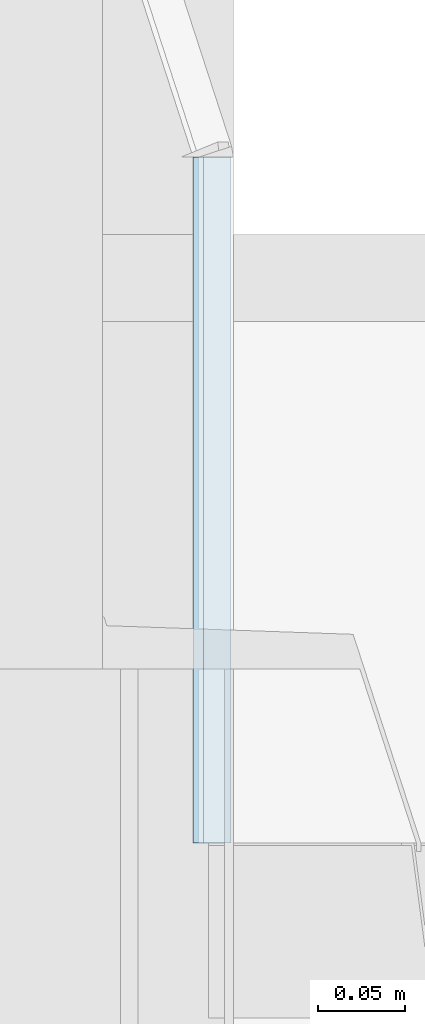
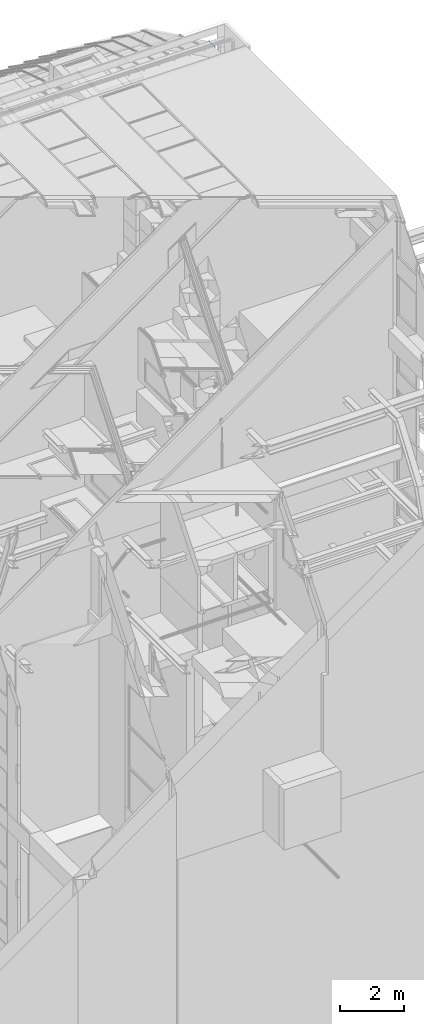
# One storey, part 311 of 583: 2 slabs.
"""IFC2X3 building model written with IfcOpenShell, lengths in metres."""

from ifc_helpers import new_model, entity, si_unit, converted_unit, derived_unit, money_unit, direction, frame, origin_with_axes, place, context, subcontext, project, spatial, faceted_brep, material, type_object, element, save


model = new_model("IFC2X3")

# Units and contexts
model_context = context("Model", 3, precision=1e-05, world=origin_with_axes(), true_north=direction((0.0, 1.0)))
body_context = subcontext(model_context, "Body", "Model", "MODEL_VIEW", scale=1.0)
ifc_project = project(units=[si_unit("LENGTHUNIT", "METRE"), si_unit("AREAUNIT", "SQUARE_METRE"), si_unit("VOLUMEUNIT", "CUBIC_METRE"), si_unit("ABSORBEDDOSEUNIT", "GRAY"), si_unit("AMOUNTOFSUBSTANCEUNIT", "MOLE"), si_unit("DOSEEQUIVALENTUNIT", "SIEVERT"), si_unit("ELECTRICCAPACITANCEUNIT", "FARAD"), si_unit("ELECTRICCHARGEUNIT", "COULOMB"), si_unit("ELECTRICCONDUCTANCEUNIT", "SIEMENS"), si_unit("ELECTRICCURRENTUNIT", "AMPERE"), si_unit("ELECTRICRESISTANCEUNIT", "OHM"), si_unit("ELECTRICVOLTAGEUNIT", "VOLT"), si_unit("ENERGYUNIT", "JOULE"), si_unit("FORCEUNIT", "NEWTON"), si_unit("FREQUENCYUNIT", "HERTZ"), si_unit("ILLUMINANCEUNIT", "LUX"), si_unit("INDUCTANCEUNIT", "HENRY"), si_unit("LUMINOUSFLUXUNIT", "LUMEN"), si_unit("LUMINOUSINTENSITYUNIT", "CANDELA"), si_unit("MAGNETICFLUXDENSITYUNIT", "TESLA"), si_unit("MAGNETICFLUXUNIT", "WEBER"), si_unit("MASSUNIT", "GRAM"), converted_unit("PLANEANGLEUNIT", "degree", entity("IfcReal", 0.0174532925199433), si_unit("PLANEANGLEUNIT", "RADIAN"), dimensions=[0, 0, 0, 0, 0, 0, 0]), si_unit("POWERUNIT", "WATT"), si_unit("PRESSUREUNIT", "PASCAL"), si_unit("RADIOACTIVITYUNIT", "BECQUEREL"), si_unit("SOLIDANGLEUNIT", "STERADIAN"), si_unit("THERMODYNAMICTEMPERATUREUNIT", "KELVIN"), si_unit("TIMEUNIT", "SECOND"), derived_unit("ACCELERATIONUNIT", [(si_unit("LENGTHUNIT", "METRE"), 1), (si_unit("TIMEUNIT", "SECOND"), -2)]), derived_unit("ANGULARVELOCITYUNIT", [(converted_unit("PLANEANGLEUNIT", "degree", entity("IfcReal", 0.0174532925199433), si_unit("PLANEANGLEUNIT", "RADIAN"), dimensions=[0, 0, 0, 0, 0, 0, 0]), 1), (si_unit("TIMEUNIT", "SECOND"), -1)]), derived_unit("CURVATUREUNIT", [(converted_unit("PLANEANGLEUNIT", "degree", entity("IfcReal", 0.0174532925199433), si_unit("PLANEANGLEUNIT", "RADIAN"), dimensions=[0, 0, 0, 0, 0, 0, 0]), 1), (si_unit("LENGTHUNIT", "METRE"), -1)]), derived_unit("DYNAMICVISCOSITYUNIT", [(si_unit("PRESSUREUNIT", "PASCAL"), 1), (si_unit("TIMEUNIT", "SECOND"), 1)]), derived_unit("HEATFLUXDENSITYUNIT", [(si_unit("POWERUNIT", "WATT"), 1), (si_unit("LENGTHUNIT", "METRE"), -2)]), derived_unit("HEATINGVALUEUNIT", [(si_unit("ENERGYUNIT", "JOULE"), 1), (si_unit("MASSUNIT", "GRAM"), -1)]), derived_unit("INTEGERCOUNTRATEUNIT", [(si_unit("TIMEUNIT", "SECOND"), -1)]), derived_unit("IONCONCENTRATIONUNIT", [(si_unit("MASSUNIT", "GRAM"), 1), (si_unit("VOLUMEUNIT", "CUBIC_METRE"), -1)]), derived_unit("ISOTHERMALMOISTURECAPACITYUNIT", [(si_unit("VOLUMEUNIT", "CUBIC_METRE"), 1), (si_unit("MASSUNIT", "GRAM"), -1)]), derived_unit("KINEMATICVISCOSITYUNIT", [(si_unit("AREAUNIT", "SQUARE_METRE"), 1), (si_unit("TIMEUNIT", "SECOND"), -1)]), derived_unit("LINEARFORCEUNIT", [(si_unit("FORCEUNIT", "NEWTON"), 1), (si_unit("LENGTHUNIT", "METRE"), -1)]), derived_unit("LINEARMOMENTUNIT", [(si_unit("FORCEUNIT", "NEWTON"), 1), (si_unit("LENGTHUNIT", "METRE"), -1)]), derived_unit("LINEARSTIFFNESSUNIT", [(si_unit("FORCEUNIT", "NEWTON"), 1), (si_unit("LENGTHUNIT", "METRE"), -1)]), derived_unit("LINEARVELOCITYUNIT", [(si_unit("LENGTHUNIT", "METRE"), 1), (si_unit("TIMEUNIT", "SECOND"), -1)]), derived_unit("LUMINOUSINTENSITYDISTRIBUTIONUNIT", [(si_unit("LUMINOUSINTENSITYUNIT", "CANDELA"), 1), (si_unit("LUMINOUSFLUXUNIT", "LUMEN"), -1)]), derived_unit("MASSDENSITYUNIT", [(si_unit("MASSUNIT", "GRAM"), 1), (si_unit("VOLUMEUNIT", "CUBIC_METRE"), -1)]), derived_unit("MASSFLOWRATEUNIT", [(si_unit("MASSUNIT", "GRAM"), 1), (si_unit("TIMEUNIT", "SECOND"), -1)]), derived_unit("MASSPERLENGTHUNIT", [(si_unit("MASSUNIT", "GRAM"), 1), (si_unit("LENGTHUNIT", "METRE"), -1)]), derived_unit("MODULUSOFELASTICITYUNIT", [(si_unit("FORCEUNIT", "NEWTON"), 1), (si_unit("AREAUNIT", "SQUARE_METRE"), -1)]), derived_unit("MODULUSOFLINEARSUBGRADEREACTIONUNIT", [(si_unit("FORCEUNIT", "NEWTON"), 1), (si_unit("LENGTHUNIT", "METRE"), -2)]), derived_unit("MODULUSOFROTATIONALSUBGRADEREACTIONUNIT", [(si_unit("FORCEUNIT", "NEWTON"), 1), (si_unit("LENGTHUNIT", "METRE"), 1)]), derived_unit("MODULUSOFSUBGRADEREACTIONUNIT", [(si_unit("FORCEUNIT", "NEWTON"), 1), (si_unit("VOLUMEUNIT", "CUBIC_METRE"), -1)]), derived_unit("MOISTUREDIFFUSIVITYUNIT", [(si_unit("VOLUMEUNIT", "CUBIC_METRE"), 1), (si_unit("TIMEUNIT", "SECOND"), -1)]), derived_unit("MOLECULARWEIGHTUNIT", [(si_unit("MASSUNIT", "GRAM"), 1), (si_unit("AMOUNTOFSUBSTANCEUNIT", "MOLE"), -1)]), derived_unit("PLANARFORCEUNIT", [(si_unit("FORCEUNIT", "NEWTON"), 1), (si_unit("LENGTHUNIT", "METRE"), -2)]), derived_unit("ROTATIONALFREQUENCYUNIT", [(si_unit("TIMEUNIT", "SECOND"), -1)]), derived_unit("ROTATIONALMASSUNIT", [(si_unit("MASSUNIT", "GRAM"), 1), (si_unit("LENGTHUNIT", "METRE"), 2)]), derived_unit("ROTATIONALSTIFFNESSUNIT", [(si_unit("FORCEUNIT", "NEWTON"), 1), (si_unit("LENGTHUNIT", "METRE"), 1), (converted_unit("PLANEANGLEUNIT", "degree", entity("IfcReal", 0.0174532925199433), si_unit("PLANEANGLEUNIT", "RADIAN"), dimensions=[0, 0, 0, 0, 0, 0, 0]), -1)]), derived_unit("SECTIONAREAINTEGRALUNIT", [(si_unit("LENGTHUNIT", "METRE"), 5)]), derived_unit("SECTIONMODULUSUNIT", [(si_unit("LENGTHUNIT", "METRE"), 3)]), derived_unit("SHEARMODULUSUNIT", [(si_unit("FORCEUNIT", "NEWTON"), 1), (si_unit("AREAUNIT", "SQUARE_METRE"), -1)]), derived_unit("SOUNDPOWERUNIT", [(si_unit("ENERGYUNIT", "JOULE"), 1), (si_unit("TIMEUNIT", "SECOND"), -1)]), derived_unit("SPECIFICHEATCAPACITYUNIT", [(si_unit("FORCEUNIT", "NEWTON"), 1), (si_unit("MASSUNIT", "GRAM"), -1), (si_unit("THERMODYNAMICTEMPERATUREUNIT", "KELVIN"), -1)]), derived_unit("TEMPERATUREGRADIENTUNIT", [(si_unit("THERMODYNAMICTEMPERATUREUNIT", "KELVIN"), 1), (si_unit("LENGTHUNIT", "METRE"), -1)]), derived_unit("THERMALADMITTANCEUNIT", [(si_unit("POWERUNIT", "WATT"), 1), (si_unit("AREAUNIT", "SQUARE_METRE"), -1), (si_unit("THERMODYNAMICTEMPERATUREUNIT", "KELVIN"), -1)]), derived_unit("THERMALCONDUCTANCEUNIT", [(si_unit("POWERUNIT", "WATT"), 1), (si_unit("LENGTHUNIT", "METRE"), -1), (si_unit("THERMODYNAMICTEMPERATUREUNIT", "KELVIN"), -1)]), derived_unit("THERMALEXPANSIONCOEFFICIENTUNIT", [(si_unit("THERMODYNAMICTEMPERATUREUNIT", "KELVIN"), -1)]), derived_unit("THERMALRESISTANCEUNIT", [(si_unit("AREAUNIT", "SQUARE_METRE"), 1), (si_unit("POWERUNIT", "WATT"), -1)]), derived_unit("THERMALTRANSMITTANCEUNIT", [(si_unit("POWERUNIT", "WATT"), 1), (si_unit("AREAUNIT", "SQUARE_METRE"), -1), (si_unit("THERMODYNAMICTEMPERATUREUNIT", "KELVIN"), -1)]), derived_unit("TORQUEUNIT", [(si_unit("FORCEUNIT", "NEWTON"), 1), (si_unit("LENGTHUNIT", "METRE"), 1)]), derived_unit("VAPORPERMEABILITYUNIT", [(si_unit("MASSUNIT", "GRAM"), 1), (si_unit("TIMEUNIT", "SECOND"), -1)]), derived_unit("VOLUMETRICFLOWRATEUNIT", [(si_unit("VOLUMEUNIT", "CUBIC_METRE"), 1), (si_unit("TIMEUNIT", "SECOND"), -1)]), derived_unit("WARPINGCONSTANTUNIT", [(si_unit("LENGTHUNIT", "METRE"), 6)]), derived_unit("WARPINGMOMENTUNIT", [(si_unit("FORCEUNIT", "NEWTON"), 1), (si_unit("LENGTHUNIT", "METRE"), 2)]), money_unit("GBP")], contexts=[model_context])

# Site, building, storey
site_placement = place(None, origin_with_axes())
site = spatial("IfcSite", under=ifc_project, at=site_placement, Name="Site", CompositionType="ELEMENT")
building_placement = place(site_placement, origin_with_axes())
building = spatial("IfcBuilding", under=site, at=building_placement, Name="Building01", CompositionType="ELEMENT")
storey_placement = place(building_placement, frame((0.0, 0.0, 20.78), z_axis=(0.0, 0.0, 1.0), x_axis=(1.0, 0.0, 0.0)))
storey = spatial("IfcBuildingStorey", under=building, at=storey_placement, Name="RL", CompositionType="ELEMENT", Elevation=20.78)

# Slabs
ifc_material = material(Name="A_BSUK_Roofs")
slab_type = type_object("IfcSlabType", Name="A-FloorsSlabs A_BSUK_Slabs", PredefinedType="FLOOR")
slab_1_placement = place(storey_placement, frame((14.382927, 15.034499, -20.256051), z_axis=(0.0, 1.0, 0.0), x_axis=(-0.61416219, 0.0, -0.78917983)))
element("IfcSlab", 1, at=slab_1_placement, inside=storey, type_object=slab_type, material=ifc_material, Name="A-FloorsSlabs A_BSUK_Slabs", ObjectType="A-FloorsSlabs A_BSUK_Slabs", context=body_context, shape_type="Brep", body=[
    faceted_brep([(0.0, 0.0, 0.845501), (0.0, -0.02, 0.845501), (0.0, -0.02, 1.239928), (0.0, 0.0, 1.239928), (0.01, 0.0, 0.845501), (0.01, -0.02, 0.845501), (0.01, 0.0, 1.239928), (0.01, -0.02, 1.239928)], [[[0, 1, 2, 3]], [[4, 5, 1, 0]], [[6, 7, 5, 4]], [[3, 2, 7, 6]], [[1, 5, 7, 2]], [[3, 6, 4, 0]]]),
])
slab_2_placement = place(storey_placement, frame((14.382927, 15.034499, 5.677105), z_axis=(0.0, 1.0, 0.0), x_axis=(0.61416219, 0.0, -0.78917983)))
element("IfcSlab", 2, at=slab_2_placement, inside=storey, type_object=slab_type, material=ifc_material, Name="A-FloorsSlabs A_BSUK_Slabs", ObjectType="A-FloorsSlabs A_BSUK_Slabs", context=body_context, shape_type="Brep", body=[
    faceted_brep([(0.0, 0.0, 1.239928), (0.0, -0.02, 1.239928), (0.0, -0.02, 0.845501), (0.0, 0.0, 0.845501), (-0.01, -0.02, 0.845501), (-0.01, 0.0, 0.845501), (-0.01, -0.02, 1.239928), (-0.01, 0.0, 1.239928)], [[[0, 1, 2, 3]], [[3, 2, 4, 5]], [[5, 4, 6, 7]], [[7, 6, 1, 0]], [[1, 6, 4, 2]], [[3, 5, 7, 0]]]),
])

save(model, "model.ifc")
